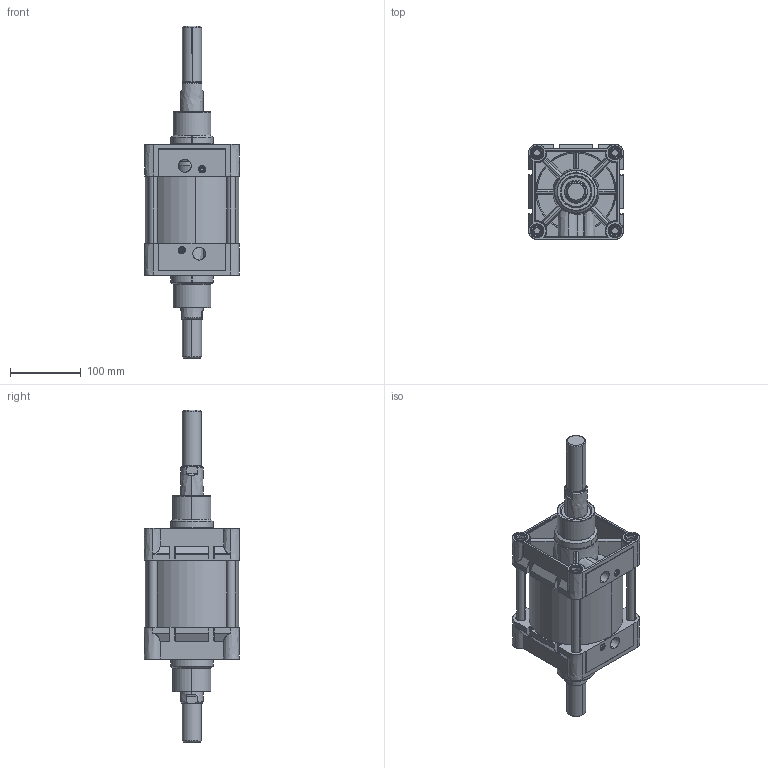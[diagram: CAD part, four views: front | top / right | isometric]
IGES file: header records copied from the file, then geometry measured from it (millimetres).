
Start section: SolidWorks IGES file using analytic representation for surfaces
Global section: file name: D:\ARICA 3D ﾇﾝZﾝMLER\3D IGES\TDNC ﾇﾝFT MﾝLLﾝ STROK AYARLI\TDNC125 STROK AYARLI\TDNC125X25CIFTMILLI-STROK AYARLI-CYLINDER.IGS; native system: SolidWorks 2013; preprocessor: SolidWorks 2013; author: user; date: 150331.093606; units: millimetre
Bounding box: 134 x 134.3 x 468.4 mm (x, y, z)
Surface area: 533008.1 mm2 (no closed solid volume)
Topology: 0 solids, 0 shells, 1259 faces, 20772 edges, 20766 vertices
Faces by surface type: revolution 696, bspline 563
